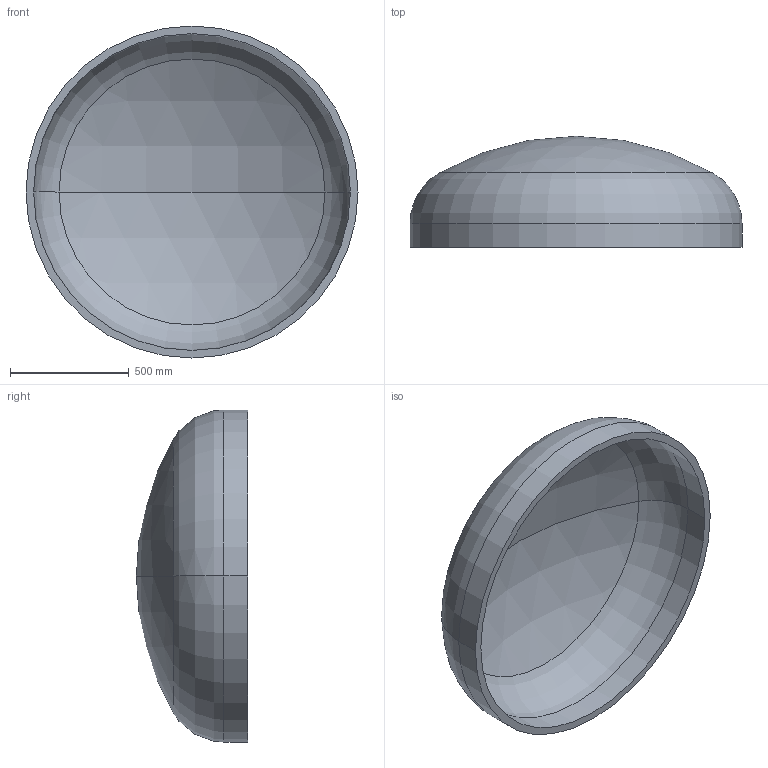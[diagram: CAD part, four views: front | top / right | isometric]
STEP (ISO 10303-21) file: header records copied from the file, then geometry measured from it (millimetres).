
FILE_DESCRIPTION (( 'STEP AP203' ), '1' );
FILE_NAME ('DIN 28013 Korbbogenform_-_Boden DIN 28013 - 1400 x 100 - I - s=32.step', '2016-07-01T10:14:53', ( '' ), ( '' ), 'SwSTEP 2.0', 'SolidWorks 2013', '' );
FILE_SCHEMA (( 'CONFIG_CONTROL_DESIGN' ));
Length unit declared in the file: millimetre
Products named in the file (1): DIN 28013 Korbbogenform_-_Boden DIN 28013 - 1400 x 100 - I - s=32
Bounding box: 1400 x 468.54 x 1400 mm (x, y, z)
Volume: 79922292.3 mm3; surface area: 5134812.8 mm2
Topology: 1 solids, 1 shells, 13 faces, 24 edges, 14 vertices
Faces by surface type: torus 4, cylinder 4, sphere 4, plane 1
Entity records: 407 total; most frequent: DIRECTION 72, CARTESIAN_POINT 52, ORIENTED_EDGE 48, AXIS2_PLACEMENT_3D 34, EDGE_CURVE 24, CIRCLE 20, EDGE_LOOP 14, VERTEX_POINT 14
